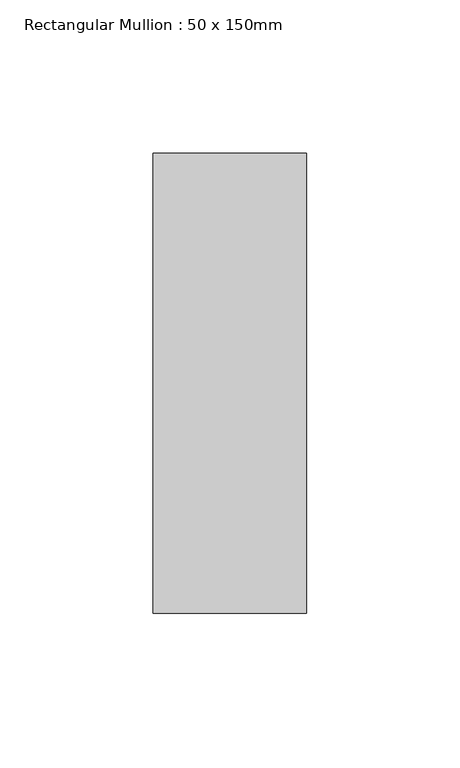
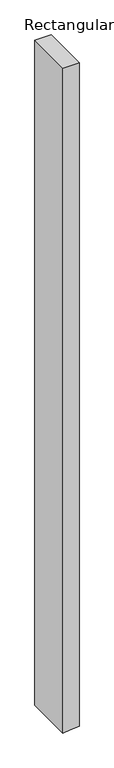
"""IFC4 building model written with IfcOpenShell, lengths in millimetres: member geometry, Rectangular Mullion : 50 x 150mm."""

from ifc_helpers import new_model, si_unit, frame, origin, place, context, project, spatial, polyline, outline, extrude, source, transform, mapped, element, save


def rectangular_mullion_50_x_150mm_dfcb6854(model_context):
    return source(origin(), model_context, "Body", "SweptSolid", [
        extrude(outline(polyline([(0.0, 25.0), (0.0, -25.0), (-2177.523259, -25.0), (-2175.5124919, -5.0022633), (-2172.4957723, 25.0), (0.0, 25.0)])), frame((0.0, -75.0, 0.0), z_axis=(0.0, 1.0, 0.0), x_axis=(0.0, 0.0, 1.0)), (0.0, 0.0, 1.0), 150.0),
    ])


if __name__ == "__main__":
    model = new_model("IFC4")
    model_context = context("Model", 3, world=origin())
    ifc_project = project(units=[si_unit("LENGTHUNIT", "METRE", prefix="MILLI")], contexts=[model_context])
    site = spatial("IfcSite", under=ifc_project)
    building = spatial("IfcBuilding", under=site)
    placement = place(None, origin())
    rectangular_mullion_50_x_150mm_shape = rectangular_mullion_50_x_150mm_dfcb6854(model_context)
    element("IfcMember", 1, ObjectType="Rectangular Mullion : 50 x 150mm", at=placement, inside=building, context=model_context, shape_type="MappedRepresentation", body=[
        mapped(rectangular_mullion_50_x_150mm_shape, transform((0.0, 0.0, 0.0), x_axis=(1.0, 0.0, 0.0), y_axis=(0.0, 1.0, 0.0), z_axis=(0.0, 0.0, 1.0))),
    ])
    save(model, "model.ifc")
